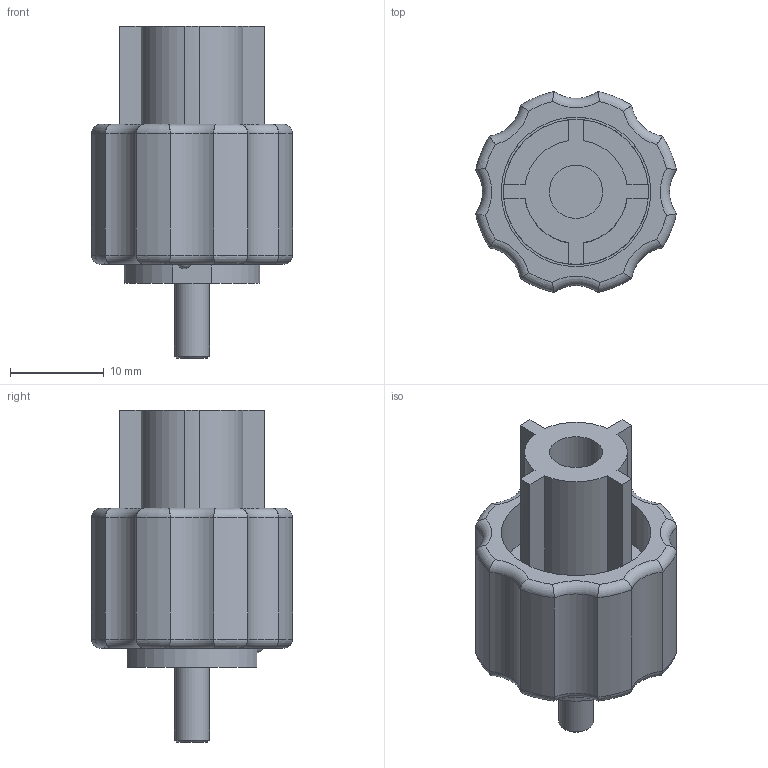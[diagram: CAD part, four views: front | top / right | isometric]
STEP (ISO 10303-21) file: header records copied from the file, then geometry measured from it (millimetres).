
FILE_DESCRIPTION(/* description */ ('LWL-Anschluss-Mutter'),/* implementation_level */ '2;1');
FILE_NAME(/* name */ 'T:\E-Mail-Zeichnungen\STEP\HOMEPAGE\LWL-Anschluss-1fach mit Mutter.stp',/* time_stamp */ '2015-04-21T12:01:33+02:00',/* author */ ('simone.schrank'),/* organization */ (''),/* preprocessor_version */ 'ST-DEVELOPER v15.6',/* originating_system */ 'Autodesk Inventor 2015',/* authorisation */ '');
FILE_SCHEMA (('AUTOMOTIVE_DESIGN { 1 0 10303 214 3 1 1 }'));
Length unit declared in the file: millimetre
Products named in the file (3): LWL-Anschluss-Mutter; LWL-Anschluss-1x; LWL-Anschluss-1fach mit Mutter
Assembly tree (2 placements, depth 2):
  LWL-Anschluss-1fach mit Mutter
    LWL-Anschluss-Mutter
    LWL-Anschluss-1x
Bounding box: 21.5 x 21.5 x 35.5 mm (x, y, z)
Volume: 5858.1 mm3; surface area: 4103.6 mm2
Topology: 2 solids, 2 shells, 102 faces, 247 edges, 153 vertices
Faces by surface type: plane 39, torus 32, cylinder 29, cone 1, sphere 1
Full cylindrical faces by diameter (mm): 2 x1, 3.75 x1, 5.7 x1, 15.5 x1, 16 x1, 16.5 x1, 16.917 x1
Entity records: 3351 total; most frequent: CARTESIAN_POINT 907, DIRECTION 526, ORIENTED_EDGE 468, EDGE_CURVE 234, AXIS2_PLACEMENT_3D 217, VERTEX_POINT 150, EDGE_LOOP 118, CIRCLE 110
